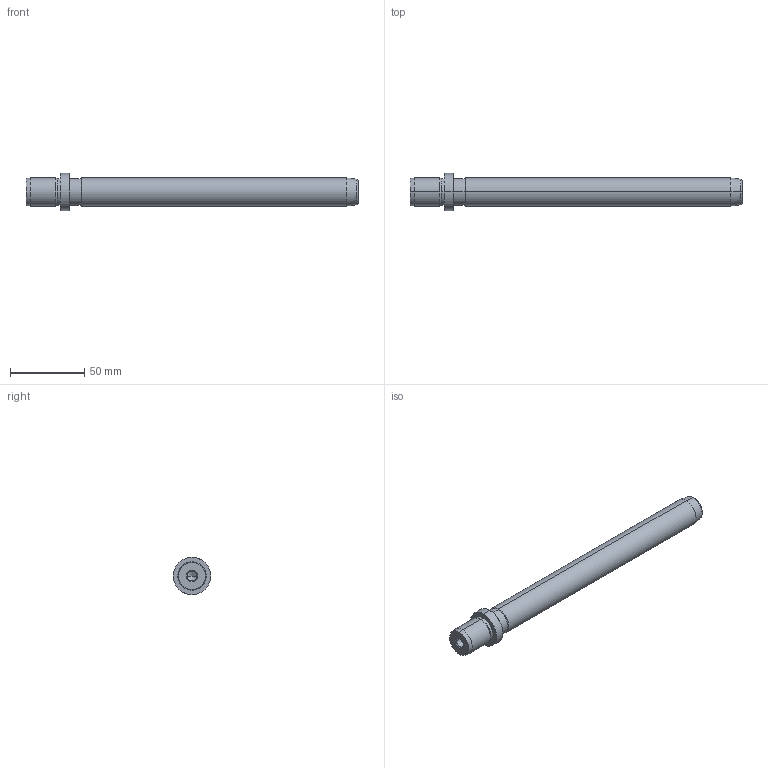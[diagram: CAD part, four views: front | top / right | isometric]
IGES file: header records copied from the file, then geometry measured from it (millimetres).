
Start section: START RECORD GO HERE.
Global section: file name: 718-19x200.igs; native system: DASSAULT SYSTEMES CATIA V5 R20 - www.3ds.com; preprocessor: CATIA Version 5 Release 20 ; author: Utente; organization: NB04-ASUS; date: 20210102.163404; units: millimetre
Bounding box: 223 x 25 x 25 mm (x, y, z)
Surface area: 15324.2 mm2 (no closed solid volume)
Topology: 0 solids, 0 shells, 36 faces, 196 edges, 192 vertices
Faces by surface type: revolution 32, plane 4
